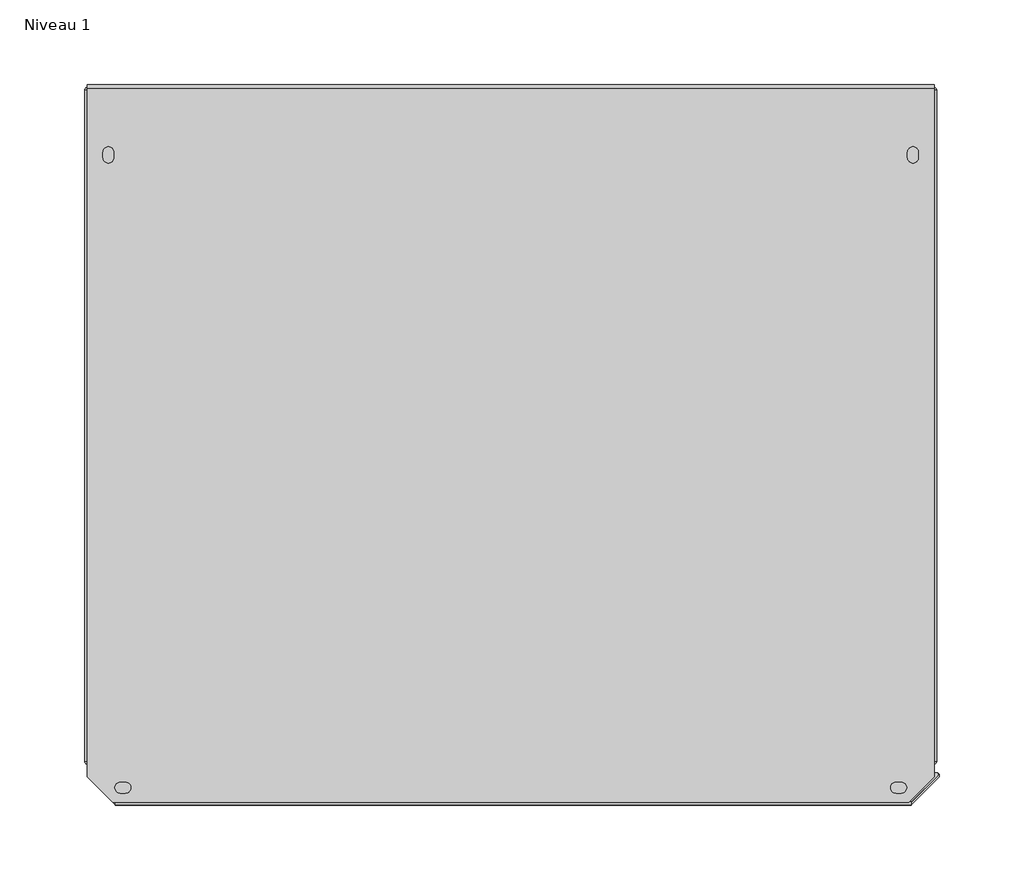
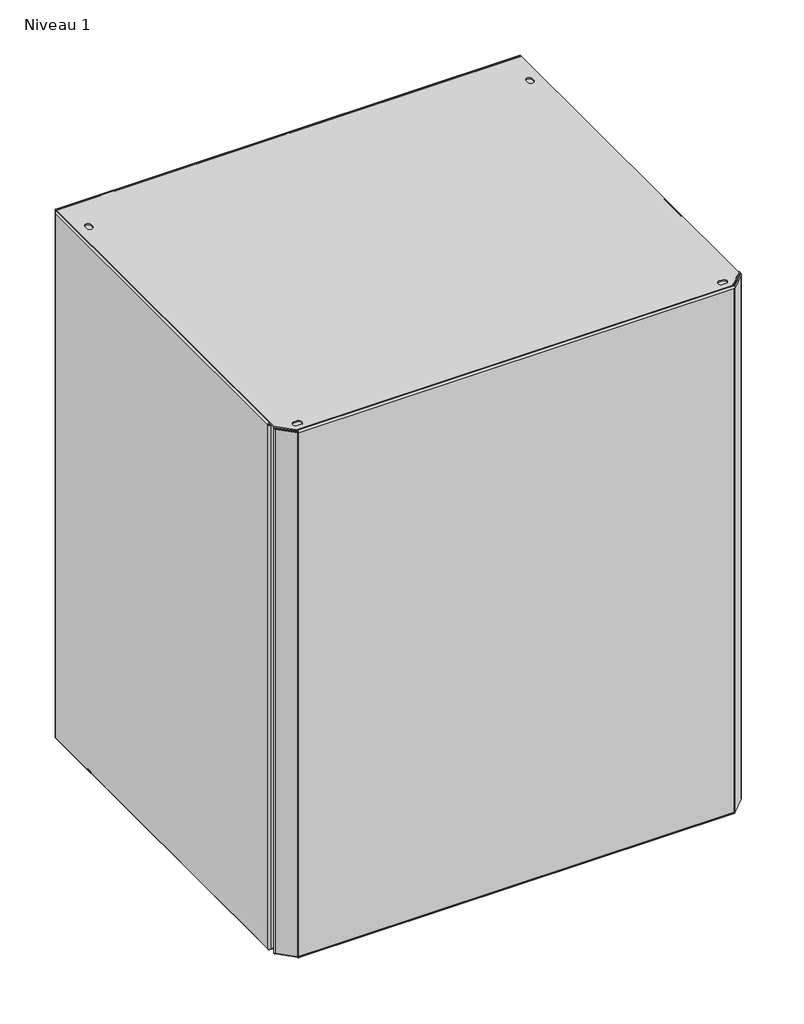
# One storey: 1 proxy.
"""IFC4 building model written with IfcOpenShell, lengths in millimetres."""

import ifcopenshell
import ifcopenshell.guid

model = None  # the IFC model being written
_history = None  # IfcOwnerHistory: only IFC2X3 demands one
_inside = {}  # id of a spatial element -> (the spatial element, [elements in it])
_under = {}  # id of a project, library or spatial element -> (it, [spatial elements below it])
_declared = {}  # id of a project -> (the project, [libraries it declares])
_typed = {}  # id of a type object -> (the type object, [elements of that type])
_made_of = {}  # id of a material, layer set ... -> (it, [elements and type objects made of it])


def new_model(schema):
    """Start an empty IFC model of exactly this schema.

    Asked for "IFC4X3", IfcOpenShell would pick the latest addendum, in which some entities
    have other attributes; the version numbers below select the first issue.
    IFC2X3 requires an IfcOwnerHistory on every rooted entity: one is made here for all.
    """
    global model, _history
    if schema == "IFC4X3":
        model = ifcopenshell.file(schema_version=(4, 3, 0, 0))
    else:
        model = ifcopenshell.file(schema=schema)
    _inside.clear()
    _under.clear()
    _declared.clear()
    _typed.clear()
    _made_of.clear()
    _history = None
    if model.schema == "IFC2X3":
        org = make("IfcOrganization", Name="unknown")
        user = make(
            "IfcPersonAndOrganization",
            ThePerson=make("IfcPerson", FamilyName="unknown"),
            TheOrganization=org,
        )
        app = make(
            "IfcApplication",
            ApplicationDeveloper=org,
            Version="unknown",
            ApplicationFullName="unknown",
            ApplicationIdentifier="unknown",
        )
        _history = make(
            "IfcOwnerHistory",
            OwningUser=user,
            OwningApplication=app,
            ChangeAction="ADDED",
            CreationDate=0,
        )
    return model


def make(cls, **values):
    """One entity of the class cls with the attributes given. An attribute that is None is left unset."""
    return model.create_entity(
        cls, **{name: value for name, value in values.items() if value is not None}
    )


def rooted(cls, **values):
    """An entity with a GlobalId (a new one), such as an element, a storey or a relation."""
    return make(cls, GlobalId=ifcopenshell.guid.new(), OwnerHistory=_history, **values)


def si_unit(unit_type, name, prefix=None):
    """IfcSIUnit, for example si_unit("LENGTHUNIT", "METRE", prefix="MILLI")."""
    return make("IfcSIUnit", UnitType=unit_type, Prefix=prefix, Name=name)


def assignment(units):
    """IfcUnitAssignment: the units of a project."""
    return None if units is None else make("IfcUnitAssignment", Units=units)


def point(xyz):
    """IfcCartesianPoint."""
    return None if xyz is None else make("IfcCartesianPoint", Coordinates=xyz)


def direction(xyz):
    """IfcDirection."""
    return None if xyz is None else make("IfcDirection", DirectionRatios=xyz)


def frame(location, z_axis=None, x_axis=None):
    """IfcAxis2Placement3D, a coordinate frame: its origin and axes. An axis left out is left unset."""
    return make(
        "IfcAxis2Placement3D",
        Location=point(location),
        Axis=direction(z_axis),
        RefDirection=direction(x_axis),
    )


def frame_2d(location, x_axis=None):
    """IfcAxis2Placement2D, a coordinate frame in the plane: its origin and x axis."""
    return make(
        "IfcAxis2Placement2D", Location=point(location), RefDirection=direction(x_axis)
    )


def origin():
    """The frame at (0, 0, 0) with its axes left unset."""
    return frame((0.0, 0.0, 0.0))


def place(relative_to, where):
    """IfcLocalPlacement: puts the frame where relative to a parent placement (None: the world)."""
    return make(
        "IfcLocalPlacement", PlacementRelTo=relative_to, RelativePlacement=where
    )


def context(
    kind, dimensions, precision=None, world=None, true_north=None, identifier=None
):
    """IfcGeometricRepresentationContext, for example the 3D "Model" context."""
    return make(
        "IfcGeometricRepresentationContext",
        ContextIdentifier=identifier,
        ContextType=kind,
        CoordinateSpaceDimension=dimensions,
        Precision=precision,
        WorldCoordinateSystem=world,
        TrueNorth=true_north,
    )


def project(units=None, contexts=None):
    """IfcProject with its units and contexts."""
    return rooted(
        "IfcProject",
        Name="project",
        RepresentationContexts=contexts,
        UnitsInContext=assignment(units),
    )


def spatial(cls, under=None, at=None, **own):
    """A site, building, storey or space (cls), placed at a placement, below another one or the project."""
    s = rooted(cls, ObjectPlacement=at, **own)
    if under is not None:
        _under.setdefault(under.id(), (under, []))[1].append(s)
    return s


def polyline(points):
    """IfcPolyline through the points."""
    return make("IfcPolyline", Points=[point(p) for p in points])


def circle_curve(where, radius):
    """IfcCircle in the frame where."""
    return make("IfcCircle", Position=where, Radius=radius)


def trimmed(basis, trim1, trim2, sense, master):
    """IfcTrimmedCurve: the piece of a basis curve between two trims."""
    return make(
        "IfcTrimmedCurve",
        BasisCurve=basis,
        Trim1=trim1,
        Trim2=trim2,
        SenseAgreement=sense,
        MasterRepresentation=master,
    )


def segment(curve, same_sense, transition):
    """IfcCompositeCurveSegment."""
    return make(
        "IfcCompositeCurveSegment",
        Transition=transition,
        SameSense=same_sense,
        ParentCurve=curve,
    )


def composite_curve(segments, self_intersect=None):
    """IfcCompositeCurve: segments joined end to end."""
    return make("IfcCompositeCurve", Segments=segments, SelfIntersect=self_intersect)


def outline(outer, holes=None, kind="AREA"):
    """IfcArbitraryClosedProfileDef: a profile drawn as a closed curve; with holes, ...WithVoids."""
    if holes is None:
        return make("IfcArbitraryClosedProfileDef", ProfileType=kind, OuterCurve=outer)
    return make(
        "IfcArbitraryProfileDefWithVoids",
        ProfileType=kind,
        OuterCurve=outer,
        InnerCurves=holes,
    )


def extrude(swept, where, along, depth):
    """IfcExtrudedAreaSolid: the profile swept, set in the frame where, extruded along a direction by depth."""
    return make(
        "IfcExtrudedAreaSolid",
        SweptArea=swept,
        Position=where,
        ExtrudedDirection=direction(along),
        Depth=depth,
    )


def faces_of(points, faces, orient=None, outer=None):
    """IfcFace entities. A face is a list of loops; a loop is a list of indices into points, from 0.

    orient and outer hold one flag for each loop. By default every Orientation is true, the
    first loop of a face is its IfcFaceOuterBound and the others are IfcFaceBound.
    """
    made = []
    for i, loops in enumerate(faces):
        bounds = []
        for j, loop in enumerate(loops):
            is_outer = j == 0 if outer is None else outer[i][j]
            bounds.append(
                make(
                    "IfcFaceOuterBound" if is_outer else "IfcFaceBound",
                    Bound=make("IfcPolyLoop", Polygon=[points[k] for k in loop]),
                    Orientation=True if orient is None else orient[i][j],
                )
            )
        made.append(make("IfcFace", Bounds=bounds))
    return made


def faceted_brep(points, faces, orient=None, outer=None, voids=None):
    """IfcFacetedBrep: a solid bounded by flat faces; with voids (closed shells), ...WithVoids."""
    shared = [point(p) for p in points]
    hull = make("IfcClosedShell", CfsFaces=faces_of(shared, faces, orient, outer))
    if voids is None:
        return make("IfcFacetedBrep", Outer=hull)
    return make(
        "IfcFacetedBrepWithVoids",
        Outer=hull,
        Voids=[
            make(cls, CfsFaces=faces_of(shared, fs, o, b)) for cls, fs, o, b in voids
        ],
    )


def shape(context_of_items, identifier, shape_type, items):
    """IfcShapeRepresentation: the items that make up one representation, for example the "Body"."""
    return make(
        "IfcShapeRepresentation",
        ContextOfItems=context_of_items,
        RepresentationIdentifier=identifier,
        RepresentationType=shape_type,
        Items=items,
    )


def source(mapping_origin, context_of_items, identifier, shape_type, items):
    """IfcRepresentationMap: a shape defined once, which mapped items show again and again."""
    return make(
        "IfcRepresentationMap",
        MappingOrigin=mapping_origin,
        MappedRepresentation=shape(context_of_items, identifier, shape_type, items),
    )


def transform(
    local_origin,
    x_axis=None,
    y_axis=None,
    z_axis=None,
    scale=None,
    scale2=None,
    scale3=None,
    uniform=True,
):
    """IfcCartesianTransformationOperator3D, or its non-uniform kind. x_axis, y_axis, z_axis: its Axis1, 2, 3."""
    if uniform:
        return make(
            "IfcCartesianTransformationOperator3D",
            Axis1=direction(x_axis),
            Axis2=direction(y_axis),
            LocalOrigin=point(local_origin),
            Scale=scale,
            Axis3=direction(z_axis),
        )
    return make(
        "IfcCartesianTransformationOperator3DnonUniform",
        Axis1=direction(x_axis),
        Axis2=direction(y_axis),
        LocalOrigin=point(local_origin),
        Scale=scale,
        Axis3=direction(z_axis),
        Scale2=scale2,
        Scale3=scale3,
    )


def mapped(mapping_source, mapping_target):
    """IfcMappedItem: shows the shape of a source again, moved by a transform."""
    return make(
        "IfcMappedItem", MappingSource=mapping_source, MappingTarget=mapping_target
    )


def made_of(thing, what):
    """Note that an element or type object is made of a material, layer set ...; save() writes the relation."""
    if what is not None:
        _made_of.setdefault(what.id(), (what, []))[1].append(thing)
    return thing


def element(
    cls,
    number,
    at=None,
    inside=None,
    cuts=None,
    type_object=None,
    material=None,
    context=None,
    identifier="Body",
    shape_type=None,
    held_by="IfcProductDefinitionShape",
    body=None,
    shapes=None,
    **own,
):
    """One element of the class cls, such as IfcWall. Its Tag is "e" and its number.

    at: its placement. inside: the storey or other place that contains it. cuts: it is an
    opening in that element (IfcRelVoidsElement). A single representation is given by context,
    identifier, shape_type and body (its items); several are given by shapes. held_by: the class
    of the entity that holds the representations. save() writes the other relations.
    """
    e = rooted(cls, Tag="e%d" % number, ObjectPlacement=at, **own)
    if body is not None:
        shapes = [shape(context, identifier, shape_type, body)]
    if shapes is not None:
        e.Representation = make(held_by, Representations=shapes)
    if inside is not None:
        _inside.setdefault(inside.id(), (inside, []))[1].append(e)
    if cuts is not None:
        rooted(
            "IfcRelVoidsElement", RelatingBuildingElement=cuts, RelatedOpeningElement=e
        )
    if type_object is not None:
        _typed.setdefault(type_object.id(), (type_object, []))[1].append(e)
    return made_of(e, material)


def aggregate(whole, parts):
    """IfcRelAggregates: a whole, such as a stair, and the parts it consists of."""
    return rooted("IfcRelAggregates", RelatingObject=whole, RelatedObjects=parts)


def save(model, path):
    """Write the relations noted so far, then the file.

    IfcRelAggregates (storeys below a building ...), IfcRelContainedInSpatialStructure (elements
    in a storey), IfcRelDefinesByType, IfcRelAssociatesMaterial and IfcRelDeclares: one each for
    every whole, place, type object, material and project.
    """
    for whole, parts in _under.values():
        aggregate(whole, parts)
    for where, things in _inside.values():
        rooted(
            "IfcRelContainedInSpatialStructure",
            RelatedElements=things,
            RelatingStructure=where,
        )
    for kind, things in _typed.values():
        rooted("IfcRelDefinesByType", RelatedObjects=things, RelatingType=kind)
    for what, things in _made_of.values():
        rooted("IfcRelAssociatesMaterial", RelatedObjects=things, RelatingMaterial=what)
    for by, libraries in _declared.values():
        rooted("IfcRelDeclares", RelatingContext=by, RelatedDefinitions=libraries)
    model.write(path)


def plane_surface(at):
    """IfcPlane: the flat surface through the origin of the frame at, square to its z axis."""
    return make("IfcPlane", Position=at)


def cylinder_surface(at, radius):
    """IfcCylindricalSurface: all points at the distance radius from the z axis of the frame at."""
    return make("IfcCylindricalSurface", Position=at, Radius=radius)


def revolved_surface(curve, axis_point, axis_direction):
    """IfcSurfaceOfRevolution: the curve turned about the line through axis_point along axis_direction."""
    return make(
        "IfcSurfaceOfRevolution",
        SweptCurve=make("IfcArbitraryOpenProfileDef", ProfileType="CURVE", Curve=curve),
        AxisPosition=make("IfcAxis1Placement", Location=point(axis_point), Axis=direction(axis_direction)),
    )


def advanced_brep(points, edges, surfaces, faces):
    """IfcAdvancedBrep: a solid bounded by faces that lie on surfaces and meet in shared edges.

    An edge is (start, end): straight between two places in points (the first is 0);
    or (start, end, curve); or (start, end, curve, False) where it runs against its curve.
    A face is (place in surfaces, loops), or (place, loops, False) where it looks against
    its surface's normal. A loop lists edges by number (the first is 1), with a minus sign
    where the edge is run from its end to its start. The first loop is the outer one.
    """
    corners = [point(p) for p in points]
    vertices = [make("IfcVertexPoint", VertexGeometry=c) for c in corners]
    made = []
    for start, end, *more in edges:
        made.append(
            make(
                "IfcEdgeCurve",
                EdgeStart=vertices[start],
                EdgeEnd=vertices[end],
                EdgeGeometry=more[0] if more else make("IfcPolyline", Points=[corners[start], corners[end]]),
                SameSense=more[1] if len(more) > 1 else True,
            )
        )
    hull = []
    for where, loops, *sense in faces:
        bounds = []
        for j, loop in enumerate(loops):
            ring = [make("IfcOrientedEdge", EdgeElement=made[abs(k) - 1], Orientation=k > 0) for k in loop]
            bounds.append(
                make(
                    "IfcFaceOuterBound" if j == 0 else "IfcFaceBound",
                    Bound=make("IfcEdgeLoop", EdgeList=ring),
                    Orientation=True,
                )
            )
        hull.append(make("IfcAdvancedFace", Bounds=bounds, FaceSurface=surfaces[where], SameSense=sense[0] if sense else True))
    return make("IfcAdvancedBrep", Outer=make("IfcClosedShell", CfsFaces=hull))


def electrical_equipment_dfd686c2(model_context):
    return source(origin(), model_context, "Body", "SolidModel", [
        extrude(outline(composite_curve([segment(polyline([(-223.9437096, 1.7331973), (-222.9437137, 1.7331973)]), True, "CONTINUOUS"), segment(trimmed(circle_curve(frame_2d((-222.2070944, 1.7331973)), 0.7366193), [point((-222.9437137, 1.7331973))], [point((-222.2071096, 0.996578))], True, "CARTESIAN"), True, "CONTINUOUS"), segment(polyline([(-222.2071096, 0.996578), (-222.2071096, -0.0033973)]), True, "CONTINUOUS"), segment(trimmed(circle_curve(frame_2d((-222.2071096, 1.7332027)), 1.7366), [point((-222.2071096, -0.0033973))], [point((-223.9437096, 1.7331973))], False, "CARTESIAN"), True, "CONTINUOUS")], self_intersect=False)), frame((-233.3879617, 0.0, 0.0), z_axis=(1.0, 0.0, 0.0), x_axis=(0.0, 1.0, 0.0)), (0.0, 0.0, 1.0), 469.8475635),
        advanced_brep(
        [(236.4830901, -222.2071096, -0.0033973), (-233.4798905, -222.2071096, -0.0033973), (-249.0315, -206.6555001, -0.0033973), (-248.3243952, -204.9483981, -0.0033973), (251.3332463, -204.9483981, -0.0033973), (252.0386958, -206.6515039, -0.0033973), (236.4830901, -222.2071096, 0.996578), (252.0386958, -206.6515039, 0.996578), (251.3332463, -204.9483981, 0.996578), (-248.3644963, -204.9483981, 0.996578), (-249.0315, -206.6555001, 0.996578), (-233.4798905, -222.2071096, 0.996578)],
        [
            (0, 1),
            (1, 2),
            (2, 3, circle_curve(frame((-248.3243952, -205.9483953, -0.0033973), z_axis=(0.0, 0.0, -1.0), x_axis=(1.0, 0.0, 0.0)), 0.9999972)),
            (3, 4),
            (4, 5, circle_curve(frame((251.3332463, -205.9460544, -0.0033973), z_axis=(0.0, 0.0, -1.0), x_axis=(0.0, 1.0, 0.0)), 0.9976563)),
            (5, 0),
            (6, 7),
            (7, 8, circle_curve(frame((251.3332463, -205.9460544, 0.996578), z_axis=(0.0, 0.0, 1.0), x_axis=(0.0, 1.0, 0.0)), 0.9976563)),
            (8, 9),
            (9, 10, circle_curve(frame((-248.3243952, -205.9483953, 0.996578), z_axis=(0.0, 0.0, 1.0), x_axis=(1.0, 0.0, 0.0)), 0.9999972)),
            (10, 11),
            (11, 6),
            (5, 7),
            (6, 0),
            (4, 8),
            (3, 9),
            (2, 10),
            (1, 11),
        ],
        [
            plane_surface(frame((-233.4798903, -222.2071096, -0.0033973), z_axis=(0.0, 0.0, -1.0), x_axis=(-1.0, 0.0, 0.0))),
            plane_surface(frame((-233.4798903, -222.2071096, 0.996578), z_axis=(0.0, 0.0, 1.0), x_axis=(1.0, 0.0, 0.0))),
            plane_surface(frame((252.0386958, -206.6515039, -0.0033973), z_axis=(0.707106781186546, -0.7071067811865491, 0.0), x_axis=(0.0, 0.0, 1.0))),
            cylinder_surface(frame((251.3332463, -205.9460544, 0.996578), z_axis=(0.0, 0.0, -1.0), x_axis=(0.0, 1.0, 0.0)), 0.9976563),
            plane_surface(frame((-248.3644963, -204.9483981, -0.0033973), z_axis=(0.0, 1.0, 0.0), x_axis=(0.0, 0.0, 1.0))),
            cylinder_surface(frame((-248.3243952, -205.9483953, 0.996578), z_axis=(0.0, 0.0, -1.0), x_axis=(1.0, 0.0, 0.0)), 0.9999972),
            plane_surface(frame((-233.4798905, -222.2071096, -0.0033973), z_axis=(-0.7071067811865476, -0.7071067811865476, 0.0), x_axis=(0.0, 0.0, 1.0))),
            plane_surface(frame((236.4830901, -222.2071096, -0.0033973), z_axis=(0.0, -1.0, 0.0), x_axis=(0.0, 0.0, 1.0))),
        ],
        [
            (0, [[1, 2, 3, 4, 5, 6]]),
            (1, [[7, 8, 9, 10, 11, 12]]),
            (2, [[-6, 13, -7, 14]]),
            (3, [[-5, 15, -8, -13]]),
            (4, [[-4, 16, -9, -15]]),
            (5, [[-3, 17, -10, -16]]),
            (6, [[-2, 18, -11, -17]]),
            (7, [[-1, -14, -12, -18]]),
        ],
    ),
        extrude(outline(composite_curve([segment(trimmed(circle_curve(frame_2d((-222.2071096, 598.2599891)), 1.7366), [point((-223.9437096, 598.2599945))], [point((-222.2071096, 599.9965891))], False, "CARTESIAN"), True, "CONTINUOUS"), segment(polyline([(-222.2071096, 599.9965891), (-222.2071096, 598.9966138)]), True, "CONTINUOUS"), segment(trimmed(circle_curve(frame_2d((-222.2070944, 598.2599945)), 0.7366193), [point((-222.2071096, 598.9966138))], [point((-222.9437137, 598.2599945))], True, "CARTESIAN"), True, "CONTINUOUS"), segment(polyline([(-222.9437137, 598.2599945), (-223.9437096, 598.2599945)]), True, "CONTINUOUS")], self_intersect=False)), frame((-233.3879617, 0.0, 0.0), z_axis=(1.0, 0.0, 0.0), x_axis=(0.0, 1.0, 0.0)), (0.0, 0.0, 1.0), 469.8475635),
        advanced_brep(
        [(236.4830901, -222.2071096, 599.9965891), (252.0386958, -206.6515039, 599.9965891), (251.3332463, -204.9483981, 599.9965891), (-248.3644963, -204.9483981, 599.9965891), (-249.0315, -206.6555001, 599.9965891), (-233.4798905, -222.2071096, 599.9965891), (236.4830901, -222.2071096, 598.9966138), (-233.4798905, -222.2071096, 598.9966138), (-249.0315, -206.6555001, 598.9966138), (-248.3243952, -204.9483981, 598.9966138), (251.3332463, -204.9483981, 598.9966138), (252.0386958, -206.6515039, 598.9966138)],
        [
            (0, 1),
            (1, 2, circle_curve(frame((251.3332463, -205.9460544, 599.9965891), z_axis=(0.0, 0.0, 1.0), x_axis=(0.0, 1.0, 0.0)), 0.9976563)),
            (2, 3),
            (3, 4, circle_curve(frame((-248.3243952, -205.9483953, 599.9965891), z_axis=(0.0, 0.0, 1.0), x_axis=(1.0, 0.0, 0.0)), 0.9999972)),
            (4, 5),
            (5, 0),
            (6, 7),
            (7, 8),
            (8, 9, circle_curve(frame((-248.3243952, -205.9483953, 598.9966138), z_axis=(0.0, 0.0, -1.0), x_axis=(1.0, 0.0, 0.0)), 0.9999972)),
            (9, 10),
            (10, 11, circle_curve(frame((251.3332463, -205.9460544, 598.9966138), z_axis=(0.0, 0.0, -1.0), x_axis=(0.0, 1.0, 0.0)), 0.9976563)),
            (11, 6),
            (0, 6),
            (11, 1),
            (10, 2),
            (9, 3),
            (8, 4),
            (7, 5),
        ],
        [
            plane_surface(frame((252.0346996, -206.6555001, 599.9965891), z_axis=(0.0, 0.0, 1.0), x_axis=(0.7071067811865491, 0.707106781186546, 0.0))),
            plane_surface(frame((252.0346996, -206.6555001, 598.9966138), z_axis=(0.0, 0.0, -1.0), x_axis=(-0.7071067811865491, -0.707106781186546, 0.0))),
            plane_surface(frame((236.4830901, -222.2071096, 599.9965891), z_axis=(0.707106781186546, -0.7071067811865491, 0.0), x_axis=(0.0, 0.0, -1.0))),
            cylinder_surface(frame((251.3332463, -205.9460544, 598.9966138), z_axis=(0.0, 0.0, 1.0), x_axis=(0.0, 1.0, 0.0)), 0.9976563),
            plane_surface(frame((251.3332463, -204.9483981, 599.9965891), z_axis=(0.0, 1.0, 0.0), x_axis=(0.0, 0.0, -1.0))),
            cylinder_surface(frame((-248.3243952, -205.9483953, 598.9966138), z_axis=(0.0, 0.0, 1.0), x_axis=(1.0, 0.0, 0.0)), 0.9999972),
            plane_surface(frame((-249.0315, -206.6555001, 599.9965891), z_axis=(-0.7071067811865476, -0.7071067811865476, 0.0), x_axis=(0.0, 0.0, -1.0))),
            plane_surface(frame((-233.4798905, -222.2071096, 599.9965891), z_axis=(0.0, -1.0, 0.0), x_axis=(0.0, 0.0, -1.0))),
        ],
        [
            (0, [[1, 2, 3, 4, 5, 6]]),
            (1, [[7, 8, 9, 10, 11, 12]]),
            (2, [[-1, 13, -12, 14]]),
            (3, [[-2, -14, -11, 15]]),
            (4, [[-3, -15, -10, 16]]),
            (5, [[-4, -16, -9, 17]]),
            (6, [[-5, -17, -8, 18]]),
            (7, [[-6, -18, -7, -13]]),
        ],
    ),
        extrude(outline(composite_curve([segment(trimmed(circle_curve(frame_2d((-248.2649894, -206.684579)), 1.7371967), [point((-249.4933722, -207.9129633))], [point((-248.3241898, -204.9483913))], False, "CARTESIAN"), True, "CONTINUOUS"), segment(polyline([(-248.3241898, -204.9483913), (-239.0437194, -204.9483913), (-239.0437194, -205.948403), (-248.2654062, -205.948403)]), True, "CONTINUOUS"), segment(trimmed(circle_curve(frame_2d((-248.2654062, -206.6849972)), 0.7365943), [point((-248.2654062, -205.948403))], [point((-248.786257, -207.205848))], True, "CARTESIAN"), True, "CONTINUOUS"), segment(polyline([(-248.786257, -207.205848), (-233.3852933, -222.6068117)]), True, "CONTINUOUS"), segment(trimmed(circle_curve(frame_2d((-232.5719499, -221.7934683)), 1.1502413), [point((-233.3852933, -222.6068117))], [point((-232.5719499, -222.9437096))], True, "CARTESIAN"), True, "CONTINUOUS"), segment(polyline([(-232.5719499, -222.9437096), (235.5919828, -222.9437096)]), True, "CONTINUOUS"), segment(trimmed(circle_curve(frame_2d((235.5919828, -221.8341076)), 1.109602), [point((235.5919828, -222.9437096))], [point((236.3765899, -222.6187147))], True, "CARTESIAN"), True, "CONTINUOUS"), segment(polyline([(236.3765899, -222.6187147), (251.7894486, -207.205856)]), True, "CONTINUOUS"), segment(trimmed(circle_curve(frame_2d((251.2685945, -206.6850019)), 0.7365989), [point((251.7894486, -207.205856))], [point((251.2685945, -205.948403))], True, "CARTESIAN"), True, "CONTINUOUS"), segment(polyline([(251.2685945, -205.948403), (242.046919, -205.948403), (242.046919, -204.9483981), (251.3275882, -204.9483981)]), True, "CONTINUOUS"), segment(trimmed(circle_curve(frame_2d((251.3275882, -206.6611568)), 1.7127587), [point((251.3275882, -204.9483981))], [point((252.4965719, -207.9129633))], False, "CARTESIAN"), True, "CONTINUOUS"), segment(polyline([(252.4965719, -207.9129633), (237.1101717, -223.2993454)]), True, "CONTINUOUS"), segment(trimmed(circle_curve(frame_2d((235.5545377, -221.7437096)), 2.2), [point((237.1101717, -223.2993454))], [point((235.5545377, -223.9437096))], False, "CARTESIAN"), True, "CONTINUOUS"), segment(polyline([(235.5545377, -223.9437096), (-232.9448591, -223.9437096)]), True, "CONTINUOUS"), segment(trimmed(circle_curve(frame_2d((-232.9448591, -222.6937543)), 1.2499553), [point((-232.9448591, -223.9437096))], [point((-233.8287105, -223.5776067))], False, "CARTESIAN"), True, "CONTINUOUS"), segment(polyline([(-233.8287105, -223.5776067), (-249.4933722, -207.9129633)]), True, "CONTINUOUS")], self_intersect=False)), frame((0.0, 0.0, 1.7300001), z_axis=(0.0, 0.0, 1.0), x_axis=(1.0, 0.0, 0.0)), (0.0, 0.0, 1.0), 596.5299944),
        extrude(outline(polyline([(593.9965919, 249.9999946), (593.9965919, -249.999991), (5.9965998, -249.999991), (5.9965998, 249.9999946), (593.9965919, 249.9999946)]), holes=[composite_curve([segment(trimmed(circle_curve(frame_2d((476.2996846, 233.5465454)), 7.9534552), [point((476.2996846, 241.5000006))], [point((476.2996846, 225.5930903))], True, "CARTESIAN"), True, "CONTINUOUS"), segment(trimmed(circle_curve(frame_2d((476.2996846, 233.5465454)), 7.9534552), [point((476.2996846, 225.5930903))], [point((476.2996846, 241.5000006))], True, "CARTESIAN"), True, "CONTINUOUS")], self_intersect=False), composite_curve([segment(trimmed(circle_curve(frame_2d((476.2996846, -233.5465418)), 7.9534552), [point((476.2996846, -241.499997))], [point((476.2996846, -225.5930867))], True, "CARTESIAN"), True, "CONTINUOUS"), segment(trimmed(circle_curve(frame_2d((476.2996846, -233.5465418)), 7.9534552), [point((476.2996846, -225.5930867))], [point((476.2996846, -241.499997))], True, "CARTESIAN"), True, "CONTINUOUS")], self_intersect=False), composite_curve([segment(trimmed(circle_curve(frame_2d((238.2382923, 233.5465454)), 7.9534552), [point((238.2382923, 241.5000006))], [point((238.2382923, 225.5930903))], True, "CARTESIAN"), True, "CONTINUOUS"), segment(trimmed(circle_curve(frame_2d((238.2382923, 233.5465454)), 7.9534552), [point((238.2382923, 225.5930903))], [point((238.2382923, 241.5000006))], True, "CARTESIAN"), True, "CONTINUOUS")], self_intersect=False), composite_curve([segment(trimmed(circle_curve(frame_2d((238.2382923, -233.5465418)), 7.9534552), [point((238.2382923, -241.499997))], [point((238.2382923, -225.5930867))], True, "CARTESIAN"), True, "CONTINUOUS"), segment(trimmed(circle_curve(frame_2d((238.2382923, -233.5465418)), 7.9534552), [point((238.2382923, -225.5930867))], [point((238.2382923, -241.499997))], True, "CARTESIAN"), True, "CONTINUOUS")], self_intersect=False)]), frame((0.0, 200.0016019, 0.0), z_axis=(0.0, 1.0, 0.0), x_axis=(0.0, 0.0, 1.0)), (0.0, 0.0, 1.0), 1.0),
        advanced_brep(
        [(225.6779933, -199.0016068, 1.7366), (249.7649945, -199.0016068, 1.7366), (250.5016, -198.2649981, 1.7366), (251.5015966, -198.2649981, 1.7366), (249.7649945, -200.0016003, 1.7366), (226.0021062, -200.0016003, 1.7366), (225.5049927, -200.4987137, 1.7366), (225.5049927, -201.5785486, 1.7366), (224.5049992, -201.5785486, 1.7366), (224.5049992, -200.1746009, 1.7366), (225.6779933, -199.0016068, 597.9966), (224.5049992, -200.1746009, 597.9966), (224.5049992, -208.0016025, 597.9966), (225.5049927, -208.0016025, 597.9966), (225.5049927, -200.4987137, 597.9966), (226.0021062, -200.0016003, 597.9966), (249.7649945, -200.0016003, 597.9966), (251.5015966, -198.2649981, 597.9966), (250.5016, -198.2649981, 597.9966), (249.7649945, -199.0016037, 597.9966), (225.5049927, -208.0016025, 25.9966009), (225.5049927, -201.5785486, 25.9966009), (224.5049992, -208.0016025, 25.9966009), (224.5049992, -201.5785486, 25.9966009)],
        [
            (0, 1),
            (1, 2, circle_curve(frame((249.7649945, -198.2649981, 1.7366), z_axis=(0.0, 0.0, 1.0), x_axis=(1.0, 0.0, 0.0)), 0.7366055)),
            (2, 3),
            (3, 4, circle_curve(frame((249.7649945, -198.2649981, 1.7366), z_axis=(0.0, 0.0, -1.0), x_axis=(1.0, 0.0, 0.0)), 1.7366021)),
            (4, 5),
            (5, 6, circle_curve(frame((226.0021062, -200.4987137, 1.7366), z_axis=(0.0, 0.0, 1.0), x_axis=(1.0, 0.0, 0.0)), 0.4971135)),
            (6, 7),
            (7, 8),
            (8, 9),
            (9, 0, circle_curve(frame((225.6779933, -200.1746009, 1.7366), z_axis=(0.0, 0.0, -1.0), x_axis=(1.0, 0.0, 0.0)), 1.1729941)),
            (10, 11, circle_curve(frame((225.6779933, -200.1746009, 597.9966), z_axis=(0.0, 0.0, 1.0), x_axis=(1.0, 0.0, 0.0)), 1.1729941)),
            (11, 12),
            (12, 13),
            (13, 14),
            (14, 15, circle_curve(frame((226.0021062, -200.4987137, 597.9966), z_axis=(0.0, 0.0, -1.0), x_axis=(1.0, 0.0, 0.0)), 0.4971135)),
            (15, 16),
            (16, 17, circle_curve(frame((249.7649945, -198.2649981, 597.9966), z_axis=(0.0, 0.0, 1.0), x_axis=(1.0, 0.0, 0.0)), 1.7366021)),
            (17, 18),
            (18, 19, circle_curve(frame((249.7649945, -198.2649981, 597.9966), z_axis=(0.0, 0.0, -1.0), x_axis=(1.0, 0.0, 0.0)), 0.7366055)),
            (19, 10),
            (0, 10),
            (19, 1),
            (18, 2),
            (17, 3),
            (16, 4),
            (15, 5),
            (14, 6),
            (13, 20),
            (20, 21),
            (21, 7),
            (12, 22),
            (22, 20),
            (11, 9),
            (8, 23),
            (23, 22),
            (21, 23),
        ],
        [
            plane_surface(frame((226.8509874, -200.1746009, 1.7366), z_axis=(0.0, 0.0, -1.0), x_axis=(0.0, -1.0, 0.0))),
            plane_surface(frame((226.8509874, -200.1746009, 597.9966), z_axis=(0.0, 0.0, 1.0), x_axis=(0.0, 1.0, 0.0))),
            plane_surface(frame((249.7649945, -199.0016068, 597.9966), z_axis=(0.0, 1.0, 0.0), x_axis=(0.0, 0.0, -1.0))),
            revolved_surface(polyline([(250.5016, -198.2649981, 1.7366), (250.5016, -198.2649981, 597.9966)]), (249.7649945, -198.2649981, 1.7366), (0.0, 0.0, -1.0)),
            plane_surface(frame((251.5015966, -198.2649981, 597.9966), z_axis=(0.0, 1.0, 0.0), x_axis=(0.0, 0.0, -1.0))),
            cylinder_surface(frame((249.7649945, -198.2649981, 1.7366), z_axis=(0.0, 0.0, 1.0), x_axis=(1.0, 0.0, 0.0)), 1.7366021),
            plane_surface(frame((226.0021062, -200.0016003, 597.9966), z_axis=(0.0, -1.0, 0.0), x_axis=(0.0, 0.0, -1.0))),
            revolved_surface(polyline([(226.4992197, -200.4987137, 1.7366), (226.4992197, -200.4987137, 597.9966)]), (226.0021062, -200.4987137, 1.7366), (0.0, 0.0, -1.0)),
            plane_surface(frame((225.5049927, -208.0016025, 597.9966), z_axis=(1.0, 0.0, 0.0), x_axis=(0.0, 0.0, -1.0))),
            plane_surface(frame((224.5049992, -208.0016025, 597.9966), z_axis=(0.0, -1.0, 0.0), x_axis=(0.0, 0.0, -1.0))),
            plane_surface(frame((224.5049992, -200.1746009, 597.9966), z_axis=(-1.0, 0.0, 0.0), x_axis=(0.0, 0.0, -1.0))),
            cylinder_surface(frame((225.6779933, -200.1746009, 1.7366), z_axis=(0.0, 0.0, 1.0), x_axis=(1.0, 0.0, 0.0)), 1.1729941),
            plane_surface(frame((225.5049927, -201.5785486, 1.7366), z_axis=(0.0, -1.0, 0.0), x_axis=(0.0, 0.0, -1.0))),
            plane_surface(frame((224.5049992, -201.5785486, 25.9966009), z_axis=(0.0, 0.0, -1.0), x_axis=(0.0, -1.0, 0.0))),
        ],
        [
            (0, [[1, 2, 3, 4, 5, 6, 7, 8, 9, 10]]),
            (1, [[11, 12, 13, 14, 15, 16, 17, 18, 19, 20]]),
            (2, [[-1, 21, -20, 22]]),
            (3, [[-2, -22, -19, 23]]),
            (4, [[-3, -23, -18, 24]]),
            (5, [[-4, -24, -17, 25]]),
            (6, [[-5, -25, -16, 26]]),
            (7, [[-6, -26, -15, 27]]),
            (8, [[-14, 28, 29, 30, -7, -27]]),
            (9, [[-13, 31, 32, -28]]),
            (10, [[-12, 33, -9, 34, 35, -31]]),
            (11, [[-10, -33, -11, -21]]),
            (12, [[36, -34, -8, -30]]),
            (13, [[-36, -29, -32, -35]]),
        ],
    ),
        advanced_brep(
        [(227.5016005, 199.0016068, 1.7366), (227.5016005, 200.0016003, 1.7366), (249.7649945, 200.0016003, 1.7366), (251.5015966, 198.2649981, 1.7366), (250.5016, 198.2649981, 1.7366), (249.7649945, 199.0016037, 1.7366), (227.5016005, 199.0016068, 597.9966), (249.7649945, 199.0016068, 597.9966), (250.5016, 198.2649981, 597.9966), (251.5015966, 198.2649981, 597.9966), (249.7649945, 200.0016003, 597.9966), (227.5016005, 200.0016003, 597.9966)],
        [
            (0, 1),
            (1, 2),
            (2, 3, circle_curve(frame((249.7649945, 198.2649981, 1.7366), z_axis=(0.0, 0.0, -1.0), x_axis=(1.0, 0.0, 0.0)), 1.7366021)),
            (3, 4),
            (4, 5, circle_curve(frame((249.7649945, 198.2649981, 1.7366), z_axis=(0.0, 0.0, 1.0), x_axis=(1.0, 0.0, 0.0)), 0.7366055)),
            (5, 0),
            (6, 7),
            (7, 8, circle_curve(frame((249.7649945, 198.2649981, 597.9966), z_axis=(0.0, 0.0, -1.0), x_axis=(1.0, 0.0, 0.0)), 0.7366055)),
            (8, 9),
            (9, 10, circle_curve(frame((249.7649945, 198.2649981, 597.9966), z_axis=(0.0, 0.0, 1.0), x_axis=(1.0, 0.0, 0.0)), 1.7366021)),
            (10, 11),
            (11, 6),
            (6, 0),
            (5, 7),
            (4, 8),
            (3, 9),
            (2, 10),
            (1, 11),
        ],
        [
            plane_surface(frame((249.7649945, 199.0016068, 1.7366), z_axis=(0.0, 0.0, -1.0), x_axis=(-1.0, 0.0, 0.0))),
            plane_surface(frame((249.7649945, 199.0016068, 597.9966), z_axis=(0.0, 0.0, 1.0), x_axis=(1.0, 0.0, 0.0))),
            plane_surface(frame((227.5016005, 199.0016068, 597.9966), z_axis=(0.0, -1.0, 0.0), x_axis=(0.0, 0.0, -1.0))),
            revolved_surface(polyline([(250.5016, 198.2649981, 1.7366), (250.5016, 198.2649981, 597.9966)]), (249.7649945, 198.2649981, 1.7366), (0.0, 0.0, -1.0)),
            plane_surface(frame((250.5016, 198.2649981, 597.9966), z_axis=(0.0, -1.0, 0.0), x_axis=(0.0, 0.0, -1.0))),
            cylinder_surface(frame((249.7649945, 198.2649981, 1.7366), z_axis=(0.0, 0.0, 1.0), x_axis=(1.0, 0.0, 0.0)), 1.7366021),
            plane_surface(frame((249.7649945, 200.0016003, 597.9966), z_axis=(0.0, 1.0, 0.0), x_axis=(0.0, 0.0, -1.0))),
            plane_surface(frame((227.5016005, 200.0016003, 597.9966), z_axis=(-1.0, 0.0, 0.0), x_axis=(0.0, 0.0, -1.0))),
        ],
        [
            (0, [[1, 2, 3, 4, 5, 6]]),
            (1, [[7, 8, 9, 10, 11, 12]]),
            (2, [[-7, 13, -6, 14]]),
            (3, [[-8, -14, -5, 15]]),
            (4, [[-9, -15, -4, 16]]),
            (5, [[-10, -16, -3, 17]]),
            (6, [[-11, -17, -2, 18]]),
            (7, [[-12, -18, -1, -13]]),
        ],
    ),
        advanced_brep(
        [(-227.5016005, 199.0016068, 1.7366), (-249.7649945, 199.0016068, 1.7366), (-250.5016, 198.2649981, 1.7366), (-251.5015966, 198.2649981, 1.7366), (-249.7649945, 200.0016003, 1.7366), (-227.5016005, 200.0016003, 1.7366), (-227.5016005, 199.0016068, 597.9966), (-227.5016005, 200.0016003, 597.9966), (-249.7649945, 200.0016003, 597.9966), (-251.5015966, 198.2649981, 597.9966), (-250.5016, 198.2649981, 597.9966), (-249.7649945, 199.0016037, 597.9966)],
        [
            (0, 1),
            (1, 2, circle_curve(frame((-249.7649945, 198.2649981, 1.7366), z_axis=(0.0, 0.0, 1.0), x_axis=(-1.0, 0.0, 0.0)), 0.7366055)),
            (2, 3),
            (3, 4, circle_curve(frame((-249.7649945, 198.2649981, 1.7366), z_axis=(0.0, 0.0, -1.0), x_axis=(-1.0, 0.0, 0.0)), 1.7366021)),
            (4, 5),
            (5, 0),
            (6, 7),
            (7, 8),
            (8, 9, circle_curve(frame((-249.7649945, 198.2649981, 597.9966), z_axis=(0.0, 0.0, 1.0), x_axis=(-1.0, 0.0, 0.0)), 1.7366021)),
            (9, 10),
            (10, 11, circle_curve(frame((-249.7649945, 198.2649981, 597.9966), z_axis=(0.0, 0.0, -1.0), x_axis=(-1.0, 0.0, 0.0)), 0.7366055)),
            (11, 6),
            (11, 1),
            (0, 6),
            (10, 2),
            (9, 3),
            (8, 4),
            (7, 5),
        ],
        [
            plane_surface(frame((-227.5016005, 200.0016003, 1.7366), z_axis=(0.0, 0.0, -1.0), x_axis=(0.0, -1.0, 0.0))),
            plane_surface(frame((-227.5016005, 200.0016003, 597.9966), z_axis=(0.0, 0.0, 1.0), x_axis=(0.0, 1.0, 0.0))),
            plane_surface(frame((-249.7649945, 199.0016068, 597.9966), z_axis=(0.0, -1.0, 0.0), x_axis=(0.0, 0.0, -1.0))),
            revolved_surface(polyline([(-250.5016, 198.2649981, 1.7366), (-250.5016, 198.2649981, 597.9966)]), (-249.7649945, 198.2649981, 1.7366), (0.0, 0.0, -1.0)),
            plane_surface(frame((-251.5015966, 198.2649981, 597.9966), z_axis=(0.0, -1.0, 0.0), x_axis=(0.0, 0.0, -1.0))),
            cylinder_surface(frame((-249.7649945, 198.2649981, 1.7366), z_axis=(0.0, 0.0, 1.0), x_axis=(-1.0, 0.0, 0.0)), 1.7366021),
            plane_surface(frame((-227.5016005, 200.0016003, 597.9966), z_axis=(0.0, 1.0, 0.0), x_axis=(0.0, 0.0, -1.0))),
            plane_surface(frame((-227.5016005, 199.0016068, 597.9966), z_axis=(1.0, 0.0, 0.0), x_axis=(0.0, 0.0, -1.0))),
        ],
        [
            (0, [[1, 2, 3, 4, 5, 6]]),
            (1, [[7, 8, 9, 10, 11, 12]]),
            (2, [[-12, 13, -1, 14]]),
            (3, [[-11, 15, -2, -13]]),
            (4, [[-10, 16, -3, -15]]),
            (5, [[-9, 17, -4, -16]]),
            (6, [[-8, 18, -5, -17]]),
            (7, [[-7, -14, -6, -18]]),
        ],
    ),
        advanced_brep(
        [(-225.6779933, -199.0016068, 1.7366), (-224.5049992, -200.1746009, 1.7366), (-224.5049992, -201.5785486, 1.7366), (-225.5049927, -201.5785486, 1.7366), (-225.5049927, -200.4987137, 1.7366), (-226.0021062, -200.0016003, 1.7366), (-249.7649945, -200.0016003, 1.7366), (-251.5015966, -198.2649981, 1.7366), (-250.5016, -198.2649981, 1.7366), (-249.7649945, -199.0016037, 1.7366), (-225.6779933, -199.0016068, 597.9966), (-249.7649945, -199.0016068, 597.9966), (-250.5016, -198.2649981, 597.9966), (-251.5015966, -198.2649981, 597.9966), (-249.7649945, -200.0016003, 597.9966), (-226.0021062, -200.0016003, 597.9966), (-225.5049927, -200.4987137, 597.9966), (-225.5049927, -208.0016025, 597.9966), (-224.5049992, -208.0016025, 597.9966), (-224.5049992, -200.1746009, 597.9966), (-225.5049927, -201.5785486, 25.9966009), (-225.5049927, -208.0016025, 25.9966009), (-224.5049992, -208.0016025, 25.9966009), (-224.5049992, -201.5785486, 25.9966009)],
        [
            (0, 1, circle_curve(frame((-225.6779933, -200.1746009, 1.7366), z_axis=(0.0, 0.0, -1.0), x_axis=(-1.0, 0.0, 0.0)), 1.1729941)),
            (1, 2),
            (2, 3),
            (3, 4),
            (4, 5, circle_curve(frame((-226.0021062, -200.4987137, 1.7366), z_axis=(0.0, 0.0, 1.0), x_axis=(-1.0, 0.0, 0.0)), 0.4971135)),
            (5, 6),
            (6, 7, circle_curve(frame((-249.7649945, -198.2649981, 1.7366), z_axis=(0.0, 0.0, -1.0), x_axis=(-1.0, 0.0, 0.0)), 1.7366021)),
            (7, 8),
            (8, 9, circle_curve(frame((-249.7649945, -198.2649981, 1.7366), z_axis=(0.0, 0.0, 1.0), x_axis=(-1.0, 0.0, 0.0)), 0.7366055)),
            (9, 0),
            (10, 11),
            (11, 12, circle_curve(frame((-249.7649945, -198.2649981, 597.9966), z_axis=(0.0, 0.0, -1.0), x_axis=(-1.0, 0.0, 0.0)), 0.7366055)),
            (12, 13),
            (13, 14, circle_curve(frame((-249.7649945, -198.2649981, 597.9966), z_axis=(0.0, 0.0, 1.0), x_axis=(-1.0, 0.0, 0.0)), 1.7366021)),
            (14, 15),
            (15, 16, circle_curve(frame((-226.0021062, -200.4987137, 597.9966), z_axis=(0.0, 0.0, -1.0), x_axis=(-1.0, 0.0, 0.0)), 0.4971135)),
            (16, 17),
            (17, 18),
            (18, 19),
            (19, 10, circle_curve(frame((-225.6779933, -200.1746009, 597.9966), z_axis=(0.0, 0.0, 1.0), x_axis=(-1.0, 0.0, 0.0)), 1.1729941)),
            (9, 11),
            (10, 0),
            (8, 12),
            (7, 13),
            (6, 14),
            (5, 15),
            (4, 16),
            (3, 20),
            (20, 21),
            (21, 17),
            (21, 22),
            (22, 18),
            (22, 23),
            (23, 2),
            (1, 19),
            (23, 20),
        ],
        [
            plane_surface(frame((-249.7649945, -199.0016068, 1.7366), z_axis=(0.0, 0.0, -1.0), x_axis=(1.0, 0.0, 0.0))),
            plane_surface(frame((-249.7649945, -199.0016068, 597.9966), z_axis=(0.0, 0.0, 1.0), x_axis=(-1.0, 0.0, 0.0))),
            plane_surface(frame((-225.6779933, -199.0016068, 597.9966), z_axis=(0.0, 1.0, 0.0), x_axis=(0.0, 0.0, -1.0))),
            revolved_surface(polyline([(-250.5016, -198.2649981, 1.7366), (-250.5016, -198.2649981, 597.9966)]), (-249.7649945, -198.2649981, 1.7366), (0.0, 0.0, -1.0)),
            plane_surface(frame((-250.5016, -198.2649981, 597.9966), z_axis=(0.0, 1.0, 0.0), x_axis=(0.0, 0.0, -1.0))),
            cylinder_surface(frame((-249.7649945, -198.2649981, 1.7366), z_axis=(0.0, 0.0, 1.0), x_axis=(-1.0, 0.0, 0.0)), 1.7366021),
            plane_surface(frame((-249.7649945, -200.0016003, 597.9966), z_axis=(0.0, -1.0, 0.0), x_axis=(0.0, 0.0, -1.0))),
            revolved_surface(polyline([(-226.4992197, -200.4987137, 1.7366), (-226.4992197, -200.4987137, 597.9966)]), (-226.0021062, -200.4987137, 1.7366), (0.0, 0.0, -1.0)),
            plane_surface(frame((-225.5049927, -200.4987137, 597.9966), z_axis=(-1.0, 0.0, 0.0), x_axis=(0.0, 0.0, -1.0))),
            plane_surface(frame((-225.5049927, -208.0016025, 597.9966), z_axis=(0.0, -1.0, 0.0), x_axis=(0.0, 0.0, -1.0))),
            plane_surface(frame((-224.5049992, -208.0016025, 597.9966), z_axis=(1.0, 0.0, 0.0), x_axis=(0.0, 0.0, -1.0))),
            cylinder_surface(frame((-225.6779933, -200.1746009, 1.7366), z_axis=(0.0, 0.0, 1.0), x_axis=(-1.0, 0.0, 0.0)), 1.1729941),
            plane_surface(frame((-224.5049992, -201.5785486, 25.9966009), z_axis=(0.0, -1.0, 0.0), x_axis=(1.0, 0.0, 0.0))),
            plane_surface(frame((-225.5049927, -201.5785486, 25.9966009), z_axis=(0.0, 0.0, -1.0), x_axis=(0.0, -1.0, 0.0))),
        ],
        [
            (0, [[1, 2, 3, 4, 5, 6, 7, 8, 9, 10]]),
            (1, [[11, 12, 13, 14, 15, 16, 17, 18, 19, 20]]),
            (2, [[-10, 21, -11, 22]]),
            (3, [[-9, 23, -12, -21]]),
            (4, [[-8, 24, -13, -23]]),
            (5, [[-7, 25, -14, -24]]),
            (6, [[-6, 26, -15, -25]]),
            (7, [[-5, 27, -16, -26]]),
            (8, [[-17, -27, -4, 28, 29, 30]]),
            (9, [[-18, -30, 31, 32]]),
            (10, [[-19, -32, 33, 34, -2, 35]]),
            (11, [[-1, -22, -20, -35]]),
            (12, [[36, -28, -3, -34]]),
            (13, [[-36, -33, -31, -29]]),
        ],
    ),
        extrude(outline(composite_curve([segment(polyline([(598.9966138, -227.5016005), (599.9965891, -227.5016005), (599.9965891, -249.7957844)]), True, "CONTINUOUS"), segment(trimmed(circle_curve(frame_2d((598.2907735, -249.7957844)), 1.7058156), [point((599.9965891, -249.7957844))], [point((598.2907735, -251.5016))], False, "CARTESIAN"), True, "CONTINUOUS"), segment(polyline([(598.2907735, -251.5016), (1.6890274, -251.5016)]), True, "CONTINUOUS"), segment(trimmed(circle_curve(frame_2d((1.6890274, -249.8125726)), 1.6890274), [point((1.6890274, -251.5016))], [point((0.0, -249.8125726))], False, "CARTESIAN"), True, "CONTINUOUS"), segment(polyline([(0.0, -249.8125726), (0.0, 2.9473757), (0.0, 249.7649981)]), True, "CONTINUOUS"), segment(trimmed(circle_curve(frame_2d((1.7366019, 249.7649981)), 1.7366019), [point((0.0, 249.7649981))], [point((1.7366019, 251.5016))], False, "CARTESIAN"), True, "CONTINUOUS"), segment(polyline([(1.7366019, 251.5016), (598.2780749, 251.5016)]), True, "CONTINUOUS"), segment(trimmed(circle_curve(frame_2d((598.2780749, 249.7830858)), 1.7185142), [point((598.2780749, 251.5016))], [point((599.9965891, 249.7830858))], False, "CARTESIAN"), True, "CONTINUOUS"), segment(polyline([(599.9965891, 249.7830858), (599.9965891, 227.5016041), (598.9966138, 227.5016041), (598.9966138, 249.7417563)]), True, "CONTINUOUS"), segment(trimmed(circle_curve(frame_2d((598.2367701, 249.7417563)), 0.7598437), [point((598.9966138, 249.7417563))], [point((598.2367701, 250.5016))], True, "CARTESIAN"), True, "CONTINUOUS"), segment(polyline([(598.2367701, 250.5016), (1.7366019, 250.5016)]), True, "CONTINUOUS"), segment(trimmed(circle_curve(frame_2d((1.7366019, 249.7649981)), 0.7366019), [point((1.7366019, 250.5016))], [point((1.0, 249.7649981))], True, "CARTESIAN"), True, "CONTINUOUS"), segment(polyline([(1.0, 249.7649981), (1.0, -5.5874638), (1.0, -249.7858024)]), True, "CONTINUOUS"), segment(trimmed(circle_curve(frame_2d((1.7157976, -249.7858024)), 0.7157976), [point((1.0, -249.7858024))], [point((1.7157976, -250.5016))], True, "CARTESIAN"), True, "CONTINUOUS"), segment(polyline([(1.7157976, -250.5016), (598.2629687, -250.5016)]), True, "CONTINUOUS"), segment(trimmed(circle_curve(frame_2d((598.2629687, -249.7679549)), 0.7336451), [point((598.2629687, -250.5016))], [point((598.9966138, -249.7679549))], True, "CARTESIAN"), True, "CONTINUOUS"), segment(polyline([(598.9966138, -249.7679549), (598.9966138, -227.5016005)]), True, "CONTINUOUS")], self_intersect=False)), frame((0.0, -198.2649981, 0.0), z_axis=(0.0, 1.0, 0.0), x_axis=(0.0, 0.0, 1.0)), (0.0, 0.0, 1.0), 396.53),
        extrude(outline(composite_curve([segment(polyline([(200.0016003, 591.4965992), (200.0016003, 599.2600061)]), True, "CONTINUOUS"), segment(trimmed(circle_curve(frame_2d((199.2650064, 599.2600061)), 0.7365939), [point((200.0016003, 599.2600061))], [point((199.2650019, 599.9966))], True, "CARTESIAN"), True, "CONTINUOUS"), segment(polyline([(199.2650019, 599.9966), (199.2650019, 601.4966038)]), True, "CONTINUOUS"), segment(trimmed(circle_curve(frame_2d((199.2650019, 599.2600061)), 2.2365977), [point((199.2650019, 601.4966038))], [point((201.5015996, 599.2600061))], False, "CARTESIAN"), True, "CONTINUOUS"), segment(polyline([(201.5015996, 599.2600061), (201.5015996, 591.4965992), (200.0016003, 591.4965992)]), True, "CONTINUOUS")], self_intersect=False)), frame((-249.9984, 0.0, 0.0), z_axis=(1.0, 0.0, 0.0), x_axis=(0.0, 1.0, 0.0)), (0.0, 0.0, 1.0), 499.9999934),
        extrude(outline(polyline([(250.0015934, -207.4983992), (235.0016005, -222.4983921), (-234.9983994, -222.4983921), (-249.9983923, -207.4983992), (-249.9983923, 199.2650019), (250.0015934, 199.2650019), (250.0015934, -207.4983992)]), holes=[composite_curve([segment(polyline([(-240.7484, 161.5016019), (-240.7484, 158.5016019)]), True, "CONTINUOUS"), segment(trimmed(circle_curve(frame_2d((-237.4984, 158.5016019)), 3.25), [point((-240.7484, 158.5016019))], [point((-234.2484, 158.5016019))], True, "CARTESIAN"), True, "CONTINUOUS"), segment(polyline([(-234.2484, 158.5016019), (-234.2484, 161.5016019)]), True, "CONTINUOUS"), segment(trimmed(circle_curve(frame_2d((-237.4984, 161.5016019)), 3.25), [point((-234.2484, 161.5016019))], [point((-240.7484, 161.5016019))], True, "CARTESIAN"), True, "CONTINUOUS")], self_intersect=False), composite_curve([segment(polyline([(-230.4984, -216.9983981), (-227.4984, -216.9983981)]), True, "CONTINUOUS"), segment(trimmed(circle_curve(frame_2d((-227.4984, -213.7483981)), 3.25), [point((-227.4984, -216.9983981))], [point((-227.4984, -210.4983981))], True, "CARTESIAN"), True, "CONTINUOUS"), segment(polyline([(-227.4984, -210.4983981), (-230.4984, -210.4983981)]), True, "CONTINUOUS"), segment(trimmed(circle_curve(frame_2d((-230.4984, -213.7483981)), 3.25), [point((-230.4984, -210.4983981))], [point((-230.4984, -216.9983981))], True, "CARTESIAN"), True, "CONTINUOUS")], self_intersect=False), composite_curve([segment(polyline([(227.5016, -216.9983981), (230.5016, -216.9983981)]), True, "CONTINUOUS"), segment(trimmed(circle_curve(frame_2d((230.5016, -213.7483981)), 3.25), [point((230.5016, -216.9983981))], [point((230.5016, -210.4983981))], True, "CARTESIAN"), True, "CONTINUOUS"), segment(polyline([(230.5016, -210.4983981), (227.5016, -210.4983981)]), True, "CONTINUOUS"), segment(trimmed(circle_curve(frame_2d((227.5016, -213.7483981)), 3.25), [point((227.5016, -210.4983981))], [point((227.5016, -216.9983981))], True, "CARTESIAN"), True, "CONTINUOUS")], self_intersect=False), composite_curve([segment(polyline([(234.2516, 161.5016019), (234.2516, 158.5016019)]), True, "CONTINUOUS"), segment(trimmed(circle_curve(frame_2d((237.5016, 158.5016019)), 3.25), [point((234.2516, 158.5016019))], [point((240.7516, 158.5016019))], True, "CARTESIAN"), True, "CONTINUOUS"), segment(polyline([(240.7516, 158.5016019), (240.7516, 161.5016019)]), True, "CONTINUOUS"), segment(trimmed(circle_curve(frame_2d((237.5016, 161.5016019)), 3.25), [point((240.7516, 161.5016019))], [point((234.2516, 161.5016019))], True, "CARTESIAN"), True, "CONTINUOUS")], self_intersect=False)]), frame((0.0, 0.0, 599.9966), z_axis=(0.0, 0.0, 1.0), x_axis=(1.0, 0.0, 0.0)), (0.0, 0.0, 1.0), 1.5000065),
        faceted_brep([(-238.0042926, -186.5042944, -7.4999998), (-238.0042926, -173.4989093, -7.4999998), (-224.9989074, -173.4989093, -7.4999998), (-224.9989074, -186.5042944, -7.4999998), (-241.5016035, -190.0016019, 0.0), (-221.5016, -190.0016019, 0.0), (-221.5016, -170.0015964, 0.0), (-241.5016035, -170.0015964, 0.0)], [[[0, 1, 2, 3]], [[4, 5, 6, 7]], [[5, 4, 0, 3]], [[6, 5, 3, 2]], [[7, 6, 2, 1]], [[4, 7, 1, 0]]]),
        faceted_brep([(238.0042926, -186.5042944, -7.4999998), (224.9989074, -186.5042944, -7.4999998), (224.9989074, -173.4989093, -7.4999998), (238.0042926, -173.4989093, -7.4999998), (241.5016035, -190.0016019, 0.0), (241.5016035, -170.0015964, 0.0), (221.5016, -170.0015964, 0.0), (221.5016, -190.0016019, 0.0)], [[[0, 1, 2, 3]], [[4, 5, 6, 7]], [[4, 7, 1, 0]], [[7, 6, 2, 1]], [[6, 5, 3, 2]], [[5, 4, 0, 3]]]),
        faceted_brep([(-238.0042926, 184.7855444, -7.4999998), (-224.9989074, 184.7855444, -7.4999998), (-224.9989074, 171.7801593, -7.4999998), (-238.0042926, 171.7801593, -7.4999998), (-241.5016035, 188.2828519, 0.0), (-241.5016035, 168.2828464, 0.0), (-221.5016, 168.2828464, 0.0), (-221.5016, 188.2828519, 0.0)], [[[0, 1, 2, 3]], [[4, 5, 6, 7]], [[4, 7, 1, 0]], [[7, 6, 2, 1]], [[6, 5, 3, 2]], [[5, 4, 0, 3]]]),
        faceted_brep([(238.0042926, 186.5042944, -7.4999998), (238.0042926, 173.4989093, -7.4999998), (224.9989074, 173.4989093, -7.4999998), (224.9989074, 186.5042944, -7.4999998), (241.5016035, 190.0016019, 0.0), (221.5016, 190.0016019, 0.0), (221.5016, 170.0015964, 0.0), (241.5016035, 170.0015964, 0.0)], [[[0, 1, 2, 3]], [[4, 5, 6, 7]], [[5, 4, 0, 3]], [[6, 5, 3, 2]], [[7, 6, 2, 1]], [[4, 7, 1, 0]]]),
    ])


model = new_model("IFC4")

# Units and contexts
model_context = context("Model", 3, world=origin())
ifc_project = project(units=[si_unit("LENGTHUNIT", "METRE", prefix="MILLI")], contexts=[model_context])

# Site, building, storey
site = spatial("IfcSite", under=ifc_project)
building = spatial("IfcBuilding", under=site)
storey = spatial("IfcBuildingStorey", under=building, Name="Niveau 1", Elevation=0.0)

# Proxy
placement = place(None, origin())
electrical_equipment_shape = electrical_equipment_dfd686c2(model_context)
element("IfcBuildingElementProxy", 1, Name="AES 48V 8A C180 AB 40 Ah : AES 48V 8A C180 AB 40 Ah", ObjectType="AES 48V 8A C180 AB 40 Ah : AES 48V 8A C180 AB 40 Ah", at=placement, inside=storey, context=model_context, shape_type="MappedRepresentation", body=[
    mapped(electrical_equipment_shape, transform((-6213.7777292, 2471.1162471, 0.0), x_axis=(1.0, 0.0, 0.0), y_axis=(0.0, 1.0, 0.0), z_axis=(0.0, 0.0, 1.0))),
])

save(model, "model.ifc")
